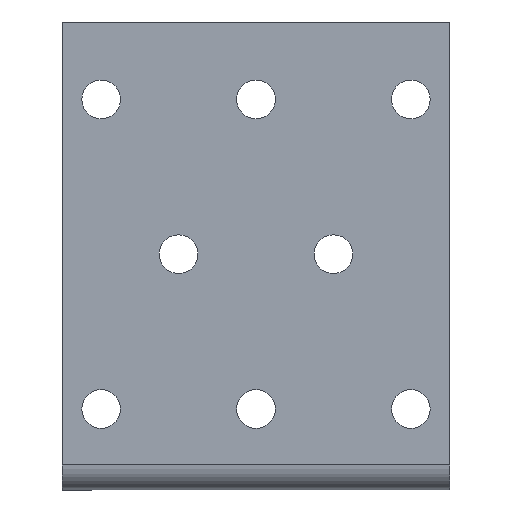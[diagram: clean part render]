
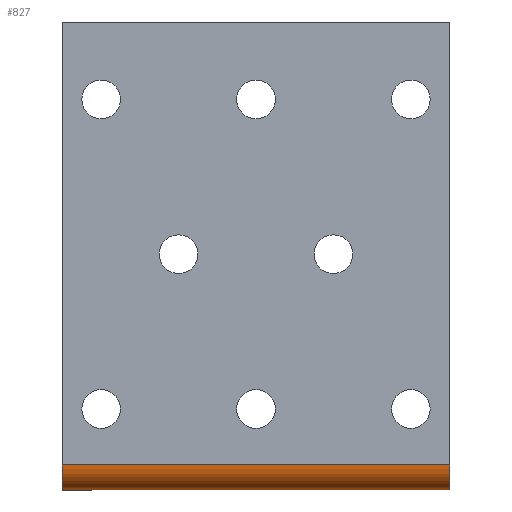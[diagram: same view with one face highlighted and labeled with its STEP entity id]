
A CAD part, front view. The second image highlights one B-rep face of the part: STEP entity #827.
In plain terms, the highlighted cylindrical face has radius 3.237 mm (diameter 6.473 mm), a partial arc.
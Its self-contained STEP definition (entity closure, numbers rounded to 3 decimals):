
#8 = EDGE_CURVE ( 'NONE', #548, #526, #290, .T. ) ;
#19 = DIRECTION ( 'NONE',  ( 1., 0., 0. ) ) ;
#34 = CARTESIAN_POINT ( 'NONE',  ( 50., 0.737, -60.462 ) ) ;
#47 = ORIENTED_EDGE ( 'NONE', *, *, #8, .T. ) ;
#86 = DIRECTION ( 'NONE',  ( 1., 0., 0. ) ) ;
#154 = CARTESIAN_POINT ( 'NONE',  ( 0., 0.737, -60.462 ) ) ;
#247 = DIRECTION ( 'NONE',  ( 1., 0., 0. ) ) ;
#290 = LINE ( 'NONE', #154, #1186 ) ;
#451 = FACE_OUTER_BOUND ( 'NONE', #1056, .T. ) ;
#468 = EDGE_CURVE ( 'NONE', #1359, #839, #1452, .T. ) ;
#478 = AXIS2_PLACEMENT_3D ( 'NONE', #614, #247, #1080 ) ;
#508 = VECTOR ( 'NONE', #19, 1000. ) ;
#526 = VERTEX_POINT ( 'NONE', #34 ) ;
#548 = VERTEX_POINT ( 'NONE', #930 ) ;
#588 = CARTESIAN_POINT ( 'NONE',  ( 50., -2.5, -57.225 ) ) ;
#595 = CARTESIAN_POINT ( 'NONE',  ( 0., -2.5, -57.225 ) ) ;
#606 = CIRCLE ( 'NONE', #1408, 3.237 ) ;
#614 = CARTESIAN_POINT ( 'NONE',  ( 50., 0.737, -57.225 ) ) ;
#732 = CIRCLE ( 'NONE', #478, 3.237 ) ;
#827 = ADVANCED_FACE ( 'NONE', ( #451 ), #1264, .T. ) ;
#839 = VERTEX_POINT ( 'NONE', #588 ) ;
#930 = CARTESIAN_POINT ( 'NONE',  ( 0., 0.737, -60.462 ) ) ;
#961 = DIRECTION ( 'NONE',  ( 1., 0., 0. ) ) ;
#978 = AXIS2_PLACEMENT_3D ( 'NONE', #1300, #1414, #1049 ) ;
#1049 = DIRECTION ( 'NONE',  ( 0., 0., -1. ) ) ;
#1056 = EDGE_LOOP ( 'NONE', ( #1306, #1099, #1357, #47 ) ) ;
#1080 = DIRECTION ( 'NONE',  ( 0., 0., 1. ) ) ;
#1099 = ORIENTED_EDGE ( 'NONE', *, *, #468, .F. ) ;
#1145 = EDGE_CURVE ( 'NONE', #839, #526, #732, .T. ) ;
#1186 = VECTOR ( 'NONE', #961, 1000. ) ;
#1223 = CARTESIAN_POINT ( 'NONE',  ( 0., -2.5, -57.225 ) ) ;
#1264 = CYLINDRICAL_SURFACE ( 'NONE', #978, 3.237 ) ;
#1300 = CARTESIAN_POINT ( 'NONE',  ( -50.043, 0.737, -57.225 ) ) ;
#1306 = ORIENTED_EDGE ( 'NONE', *, *, #1145, .F. ) ;
#1357 = ORIENTED_EDGE ( 'NONE', *, *, #1461, .T. ) ;
#1359 = VERTEX_POINT ( 'NONE', #1223 ) ;
#1408 = AXIS2_PLACEMENT_3D ( 'NONE', #1462, #86, #1468 ) ;
#1414 = DIRECTION ( 'NONE',  ( 1., 0., 0. ) ) ;
#1452 = LINE ( 'NONE', #595, #508 ) ;
#1461 = EDGE_CURVE ( 'NONE', #1359, #548, #606, .T. ) ;
#1462 = CARTESIAN_POINT ( 'NONE',  ( 0., 0.737, -57.225 ) ) ;
#1468 = DIRECTION ( 'NONE',  ( 0., 0., 1. ) ) ;
